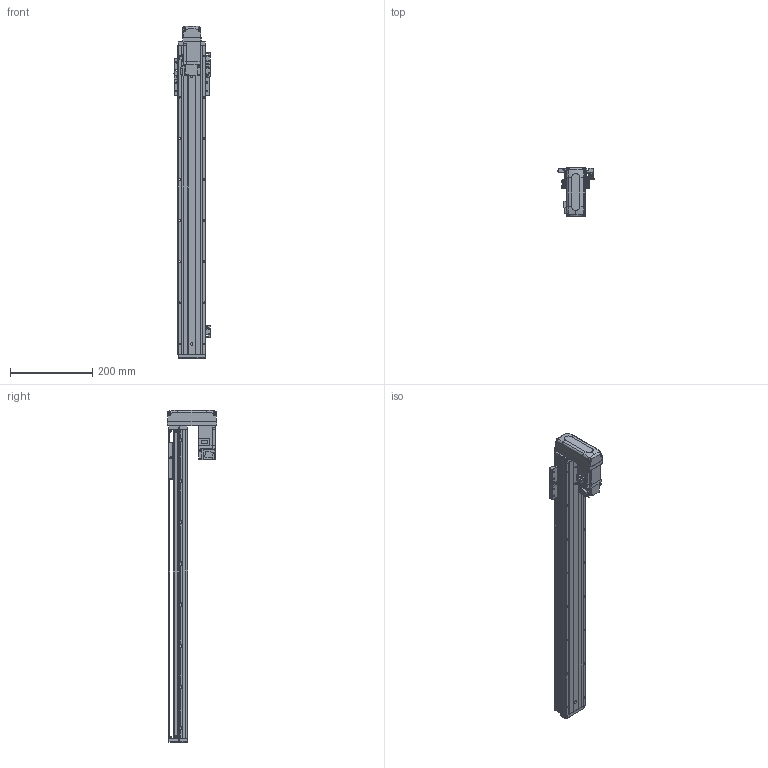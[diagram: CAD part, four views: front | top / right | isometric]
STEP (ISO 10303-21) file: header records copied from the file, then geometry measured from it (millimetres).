
FILE_DESCRIPTION (( 'STEP AP203' ), '1' );
FILE_NAME ('KTHAL60-600-BM-M10-C4L.step', '2022-03-19T08:41:48', ( '微软用户' ), ( '微软中国' ), 'SwSTEP 2.0', 'SolidWorks 2020', '' );
FILE_SCHEMA (( 'CONFIG_CONTROL_DESIGN' ));
Length unit declared in the file: millimetre
Products named in the file (18): GBT 70.3-M3℅6; CTHA60-016; EE_SX911P_R; HG-KR13（三菱）; KTHA60-001_750; CTHA60-017; CTHA60-015-2_CTHA60-015-2; KTHLA60-002; CTHA60-021; CTHA60-033; KTHA60-004; GBT 70.1-M4×16; GBT 70.1-M3×15; KTHA60-005; GBT77-2000M3-3; KTHAL60-600-BM-M10-C4L; GB¨uT 70.2-M3¡Á5_M3¡Á6; GBT 70.1-M3℅6
Assembly tree (51 placements, depth 2):
  KTHAL60-600-BM-M10-C4L
    KTHA60-001_750
    KTHLA60-002
    KTHA60-004
    KTHA60-005
    GB¨uT 70.2-M3¡Á5_M3¡Á6  x5
    GBT 70.3-M3℅6  x4
    EE_SX911P_R  x3
    CTHA60-017  x3
    CTHA60-021  x2
    GBT 70.1-M4×16  x10
    GBT77-2000M3-3  x6
    GBT 70.1-M3℅6  x6
    CTHA60-016
    HG-KR13（三菱）
    CTHA60-015-2_CTHA60-015-2
    CTHA60-033
    GBT 70.1-M3×15  x4
Bounding box: 87.82 x 120 x 807 mm (x, y, z)
Volume: 1698529 mm3; surface area: 419584.2 mm2
Topology: 54 solids, 54 shells, 2315 faces, 5499 edges, 3377 vertices
Faces by surface type: plane 1324, cylinder 565, cone 288, torus 98, bspline 26, sphere 14
Entity records: 40639 total; most frequent: CARTESIAN_POINT 7672, DIRECTION 6353, ORIENTED_EDGE 6142, EDGE_CURVE 3071, AXIS2_PLACEMENT_3D 2125, VECTOR 2103, LINE 2103, VERTEX_POINT 1926
